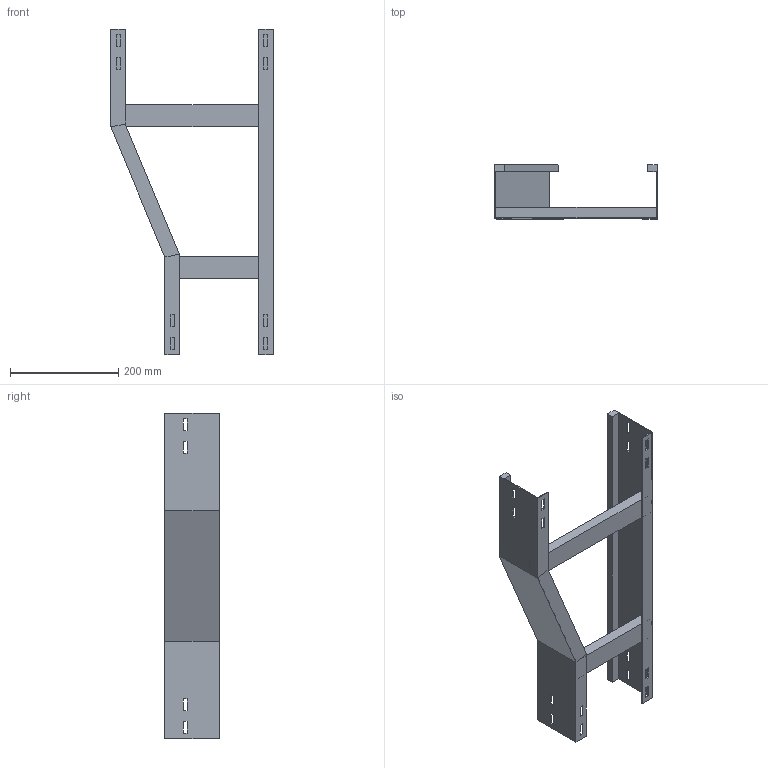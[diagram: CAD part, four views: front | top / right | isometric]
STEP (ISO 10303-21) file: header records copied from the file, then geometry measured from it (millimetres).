
FILE_DESCRIPTION (( 'STEP AP214' ), '1' );
FILE_NAME ('B2X21B2D300XX.step', '2025-09-02T17:16:19', ( '' ), ( '' ), 'SwSTEP 2.0', 'SolidWorks 2023', '' );
FILE_SCHEMA (( 'AUTOMOTIVE_DESIGN' ));
Length unit declared in the file: millimetre
Products named in the file (5): TRAVERSINO_300; SPONDA RID. DX 300-200_H100; TRAVERSINO_200; B2X21B2D300XX; SPONDA DRITTA_H100
Assembly tree (4 placements, depth 2):
  B2X21B2D300XX
    SPONDA RID. DX 300-200_H100
    TRAVERSINO_200
    TRAVERSINO_300
    SPONDA DRITTA_H100
Bounding box: 300 x 100 x 600 mm (x, y, z)
Volume: 932832 mm3; surface area: 410388 mm2
Topology: 4 solids, 4 shells, 112 faces, 296 edges, 192 vertices
Faces by surface type: plane 112
Entity records: 3590 total; most frequent: CARTESIAN_POINT 607, ORIENTED_EDGE 592, DIRECTION 534, EDGE_CURVE 296, LINE 296, VECTOR 296, VERTEX_POINT 192, EDGE_LOOP 144
